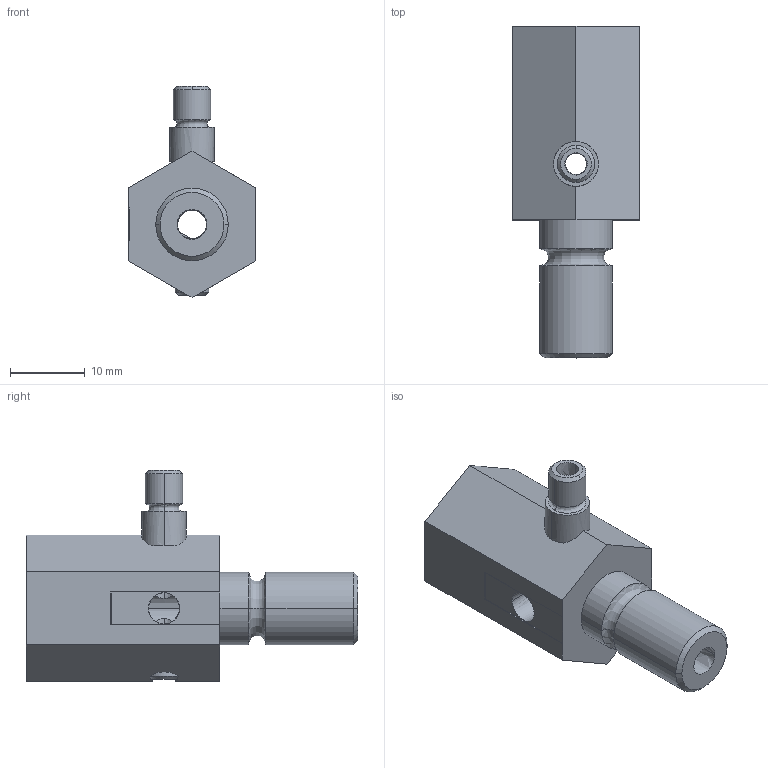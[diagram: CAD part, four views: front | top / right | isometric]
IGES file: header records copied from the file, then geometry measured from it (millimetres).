
Start section:  PTC IGES file: D:\Tpo v2\SharedFS\Outgoing\ejecto-raccord2ejr17l180600v .igs
Global section: file name: D:\Tpo v2\SharedFS\Outgoing\ejecto-raccord2ejr17l180600v.igs; native system:  by Parametric Technology Corporation; preprocessor: 2004280; organization: Unknown; date: 080307.092212; units: millimetre
Bounding box: 17 x 44.5 x 28.32 mm (x, y, z)
Volume: 6017.3 mm3; surface area: 3869.1 mm2
Topology: 1 solids, 1 shells, 52 faces, 141 edges, 90 vertices
Faces by surface type: revolution 33, bspline 19
